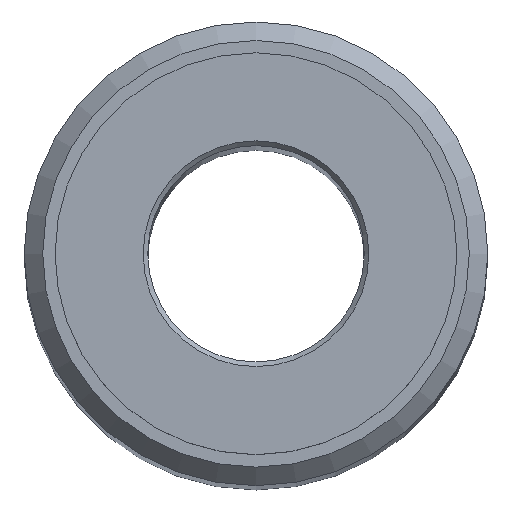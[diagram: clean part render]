
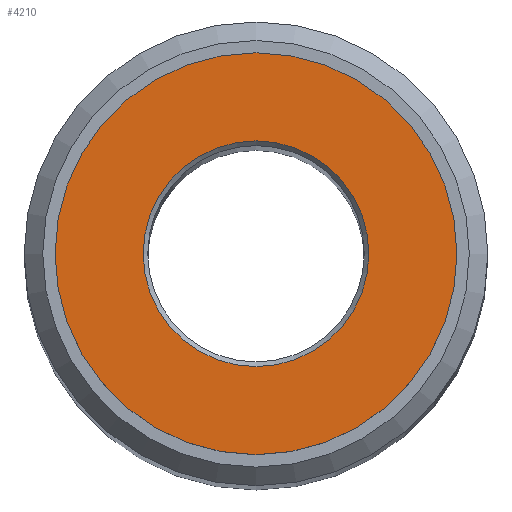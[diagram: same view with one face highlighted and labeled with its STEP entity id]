
A CAD part, top view. The second image highlights one B-rep face of the part: STEP entity #4210.
In plain terms, the highlighted planar face has unit normal (0, 0, 1).
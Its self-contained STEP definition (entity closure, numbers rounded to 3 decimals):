
#50=CIRCLE('',#4361,7.3);
#51=CIRCLE('',#4363,13.);
#80=FACE_BOUND('',#850,.T.);
#597=FACE_OUTER_BOUND('',#849,.T.);
#849=EDGE_LOOP('',(#3817));
#850=EDGE_LOOP('',(#3818));
#2033=VERTEX_POINT('',#7739);
#2034=VERTEX_POINT('',#7742);
#2638=EDGE_CURVE('',#2033,#2033,#50,.T.);
#2639=EDGE_CURVE('',#2034,#2034,#51,.T.);
#3817=ORIENTED_EDGE('',*,*,#2639,.F.);
#3818=ORIENTED_EDGE('',*,*,#2638,.F.);
#3971=PLANE('',#4362);
#4210=ADVANCED_FACE('',(#597,#80),#3971,.T.);
#4361=AXIS2_PLACEMENT_3D('',#7740,#5044,#5045);
#4362=AXIS2_PLACEMENT_3D('',#7741,#5046,#5047);
#4363=AXIS2_PLACEMENT_3D('',#7743,#5048,#5049);
#5044=DIRECTION('center_axis',(0.,0.,1.));
#5045=DIRECTION('ref_axis',(-1.,0.,0.));
#5046=DIRECTION('center_axis',(0.,0.,1.));
#5047=DIRECTION('ref_axis',(1.,0.,0.));
#5048=DIRECTION('center_axis',(0.,0.,-1.));
#5049=DIRECTION('ref_axis',(1.,0.,0.));
#7739=CARTESIAN_POINT('',(-6.052,5.249,0.));
#7740=CARTESIAN_POINT('Origin',(-13.352,5.249,0.));
#7741=CARTESIAN_POINT('Origin',(-0.352,5.249,0.));
#7742=CARTESIAN_POINT('',(-0.352,5.249,0.));
#7743=CARTESIAN_POINT('Origin',(-13.352,5.249,0.));
